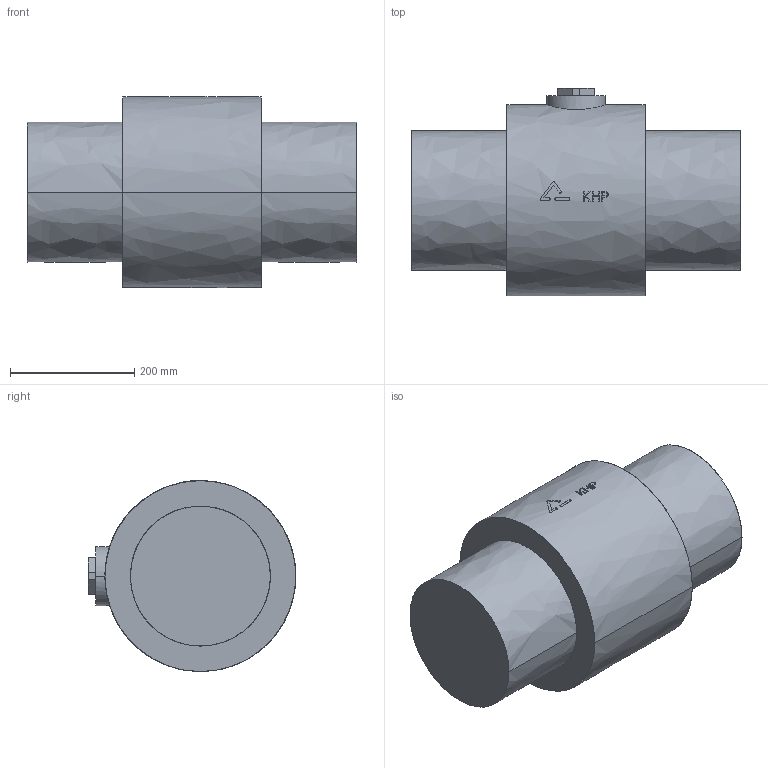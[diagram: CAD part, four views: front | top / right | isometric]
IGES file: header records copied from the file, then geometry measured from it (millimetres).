
Start section:  PTC IGES file: khp_d225.igs
Global section: file name: khp_d225.igs; native system: Pro/ENGINEER by Parametric Technology Corporation; preprocessor: 2006140; author: muellerc; organization: Unknown; date: 20060803.080236; units: millimetre
Bounding box: 530 x 334 x 307.3 mm (x, y, z)
Surface area: 589154.2 mm2 (no closed solid volume)
Topology: 0 solids, 0 shells, 95 faces, 545 edges, 548 vertices
Faces by surface type: bspline 95
